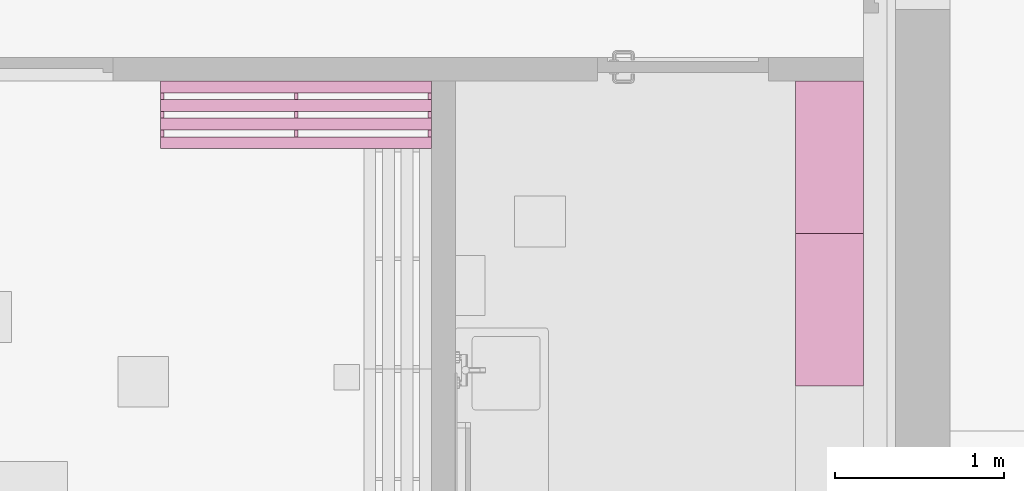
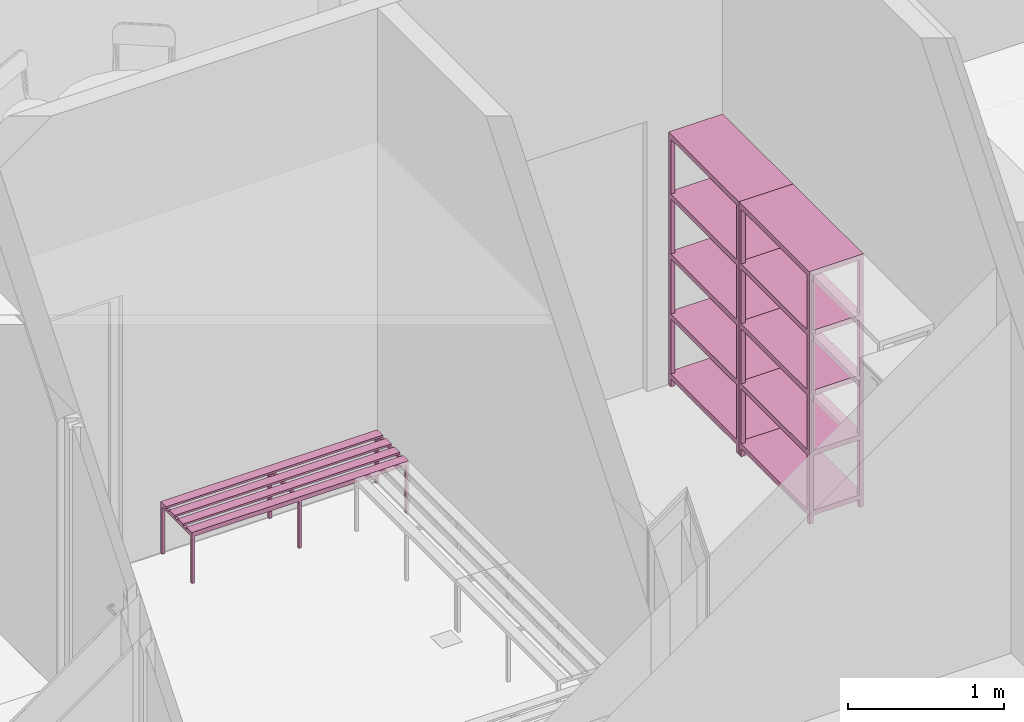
# One storey, part 279 of 301: 3 furnishings.
"""IFC2X3 building model written with IfcOpenShell, lengths in millimetres."""

from ifc_helpers import new_model, entity, si_unit, converted_unit, derived_unit, money_unit, direction, frame, origin_with_axes, place, context, subcontext, project, spatial, faceted_brep, source, transform, mapped, type_object, element, save


model = new_model("IFC2X3")

# Units and contexts
model_context = context("Model", 3, precision=0.01, world=origin_with_axes(), true_north=direction((0.0, 1.0)))
body_context = subcontext(model_context, "Body", "Model", "MODEL_VIEW")
ifc_project = project(units=[si_unit("LENGTHUNIT", "METRE", prefix="MILLI"), si_unit("AREAUNIT", "SQUARE_METRE"), si_unit("VOLUMEUNIT", "CUBIC_METRE"), converted_unit("PLANEANGLEUNIT", "DEGREE", entity("IfcPlaneAngleMeasure", 0.0174532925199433), si_unit("PLANEANGLEUNIT", "RADIAN"), dimensions=[0, 0, 0, 0, 0, 0, 0]), money_unit("EUR"), converted_unit("TIMEUNIT", "Year", entity("IfcTimeMeasure", 31557600.0), si_unit("TIMEUNIT", "SECOND"), dimensions=[0, 0, 1, 0, 0, 0, 0]), si_unit("MASSUNIT", "GRAM", prefix="KILO"), si_unit("THERMODYNAMICTEMPERATUREUNIT", "DEGREE_CELSIUS"), si_unit("LUMINOUSINTENSITYUNIT", "LUMEN"), si_unit("ENERGYUNIT", "JOULE", prefix="MEGA"), derived_unit("THERMALCONDUCTANCEUNIT", [(si_unit("POWERUNIT", "WATT"), 1), (si_unit("LENGTHUNIT", "METRE"), -1), (si_unit("THERMODYNAMICTEMPERATUREUNIT", "KELVIN"), -1)]), derived_unit("SPECIFICHEATCAPACITYUNIT", [(si_unit("ENERGYUNIT", "JOULE"), 1), (si_unit("MASSUNIT", "GRAM", prefix="KILO"), -1), (si_unit("THERMODYNAMICTEMPERATUREUNIT", "KELVIN"), -1)]), derived_unit("MASSDENSITYUNIT", [(si_unit("MASSUNIT", "GRAM", prefix="KILO"), 1), (si_unit("VOLUMEUNIT", "CUBIC_METRE"), -1)])], contexts=[model_context])

# Site, building, storey
site_placement = place(None, frame((0.0, 0.0, 8650.0), z_axis=(0.0, 0.0, 1.0), x_axis=(1.0, 0.0, 0.0)))
site = spatial("IfcSite", under=ifc_project, at=site_placement, Name="43301:001:0844", CompositionType="ELEMENT")
building_placement = place(site_placement, origin_with_axes())
building = spatial("IfcBuilding", under=site, at=building_placement, Name="Kuressaare Ametikooli tuulikute mehaanikute õppekorpus", CompositionType="ELEMENT")
storey_placement = place(building_placement, origin_with_axes())
storey = spatial("IfcBuildingStorey", under=building, at=storey_placement, Name="1.korrus", CompositionType="ELEMENT", Elevation=0.0)

# Furnishings
furniture_type_1 = type_object("IfcFurnitureType", Name="Bookshelf 02 27", AssemblyPlace="NOTDEFINED")
shared_shape_1 = source(origin_with_axes(), body_context, "Body", "Brep", [
    faceted_brep([(-30.0, 0.0, 0.0), (-30.0, 30.0, 0.0), (0.0, 30.0, 0.0), (0.0, 0.0, 0.0), (-30.0, 0.0, 1952.0), (-30.0, 30.0, 1952.0), (0.0, 30.0, 1952.0), (0.0, 0.0, 1952.0)], [[[0, 1, 2, 3]], [[0, 4, 5, 1]], [[1, 5, 6, 2]], [[2, 6, 7, 3]], [[3, 7, 4, 0]], [[7, 6, 5, 4]]]),
    faceted_brep([(-900.0000000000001, 0.0, 0.0), (-900.0000000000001, 30.0, 0.0), (-870.0000000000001, 30.0, 0.0), (-870.0000000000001, 0.0, 0.0), (-900.0000000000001, 0.0, 1952.0), (-900.0000000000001, 30.0, 1952.0), (-870.0000000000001, 30.0, 1952.0), (-870.0000000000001, 0.0, 1952.0)], [[[0, 1, 2, 3]], [[0, 4, 5, 1]], [[1, 5, 6, 2]], [[2, 6, 7, 3]], [[3, 7, 4, 0]], [[7, 6, 5, 4]]]),
    faceted_brep([(-30.0, 370.0, 0.0), (-30.0, 400.0, 0.0), (0.0, 400.0, 0.0), (0.0, 370.0, 0.0), (-30.0, 370.0, 1952.0), (-30.0, 400.0, 1952.0), (0.0, 400.0, 1952.0), (0.0, 370.0, 1952.0)], [[[0, 1, 2, 3]], [[0, 4, 5, 1]], [[1, 5, 6, 2]], [[2, 6, 7, 3]], [[3, 7, 4, 0]], [[7, 6, 5, 4]]]),
    faceted_brep([(-900.0000000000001, 370.0, 0.0), (-900.0000000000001, 400.0, 0.0), (-870.0000000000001, 400.0, 0.0), (-870.0000000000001, 370.0, 0.0), (-900.0000000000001, 370.0, 1952.0), (-900.0000000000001, 400.0, 1952.0), (-870.0000000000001, 400.0, 1952.0), (-870.0000000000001, 370.0, 1952.0)], [[[0, 1, 2, 3]], [[0, 4, 5, 1]], [[1, 5, 6, 2]], [[2, 6, 7, 3]], [[3, 7, 4, 0]], [[7, 6, 5, 4]]]),
    faceted_brep([(-30.0, 30.0, 60.0), (-30.0, 370.0, 60.0), (0.0, 370.0, 60.0), (0.0, 30.0, 60.0), (-30.0, 30.0, 80.0), (-30.0, 370.0, 80.0), (0.0, 370.0, 80.0), (0.0, 30.0, 80.0)], [[[0, 1, 2, 3]], [[0, 4, 5, 1]], [[1, 5, 6, 2]], [[2, 6, 7, 3]], [[3, 7, 4, 0]], [[7, 6, 5, 4]]]),
    faceted_brep([(-900.0000000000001, 30.0, 60.0), (-900.0000000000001, 370.0, 60.0), (-870.0000000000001, 370.0, 60.0), (-870.0000000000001, 30.0, 60.0), (-900.0000000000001, 30.0, 80.0), (-900.0000000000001, 370.0, 80.0), (-870.0000000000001, 370.0, 80.0), (-870.0000000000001, 30.0, 80.0)], [[[0, 1, 2, 3]], [[0, 4, 5, 1]], [[1, 5, 6, 2]], [[2, 6, 7, 3]], [[3, 7, 4, 0]], [[7, 6, 5, 4]]]),
    faceted_brep([(-870.0000000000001, 0.0, 60.0), (-870.0000000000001, 30.0, 60.0), (-30.0, 30.0, 60.0), (-30.0, 0.0, 60.0), (-870.0000000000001, 0.0, 80.0), (-870.0000000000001, 30.0, 80.0), (-30.0, 30.0, 80.0), (-30.0, 0.0, 80.0)], [[[0, 1, 2, 3]], [[0, 4, 5, 1]], [[1, 5, 6, 2]], [[2, 6, 7, 3]], [[3, 7, 4, 0]], [[7, 6, 5, 4]]]),
    faceted_brep([(-870.0000000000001, 370.0, 60.0), (-870.0000000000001, 400.0, 60.0), (-30.0, 400.0, 60.0), (-30.0, 370.0, 60.0), (-870.0000000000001, 370.0, 80.0), (-870.0000000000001, 400.0, 80.0), (-30.0, 400.0, 80.0), (-30.0, 370.0, 80.0)], [[[0, 1, 2, 3]], [[0, 4, 5, 1]], [[1, 5, 6, 2]], [[2, 6, 7, 3]], [[3, 7, 4, 0]], [[7, 6, 5, 4]]]),
    faceted_brep([(-30.0, 30.0, 528.0), (-30.0, 370.0, 528.0), (0.0, 370.0, 528.0), (0.0, 30.0, 528.0), (-30.0, 30.0, 548.0), (-30.0, 370.0, 548.0), (0.0, 370.0, 548.0), (0.0, 30.0, 548.0)], [[[0, 1, 2, 3]], [[0, 4, 5, 1]], [[1, 5, 6, 2]], [[2, 6, 7, 3]], [[3, 7, 4, 0]], [[7, 6, 5, 4]]]),
    faceted_brep([(-900.0000000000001, 30.0, 528.0), (-900.0000000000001, 370.0, 528.0), (-870.0000000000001, 370.0, 528.0), (-870.0000000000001, 30.0, 528.0), (-900.0000000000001, 30.0, 548.0), (-900.0000000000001, 370.0, 548.0), (-870.0000000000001, 370.0, 548.0), (-870.0000000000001, 30.0, 548.0)], [[[0, 1, 2, 3]], [[0, 4, 5, 1]], [[1, 5, 6, 2]], [[2, 6, 7, 3]], [[3, 7, 4, 0]], [[7, 6, 5, 4]]]),
    faceted_brep([(-870.0000000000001, 0.0, 528.0), (-870.0000000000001, 30.0, 528.0), (-30.0, 30.0, 528.0), (-30.0, 0.0, 528.0), (-870.0000000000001, 0.0, 548.0), (-870.0000000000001, 30.0, 548.0), (-30.0, 30.0, 548.0), (-30.0, 0.0, 548.0)], [[[0, 1, 2, 3]], [[0, 4, 5, 1]], [[1, 5, 6, 2]], [[2, 6, 7, 3]], [[3, 7, 4, 0]], [[7, 6, 5, 4]]]),
    faceted_brep([(-870.0000000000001, 370.0, 528.0), (-870.0000000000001, 400.0, 528.0), (-30.0, 400.0, 528.0), (-30.0, 370.0, 528.0), (-870.0000000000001, 370.0, 548.0), (-870.0000000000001, 400.0, 548.0), (-30.0, 400.0, 548.0), (-30.0, 370.0, 548.0)], [[[0, 1, 2, 3]], [[0, 4, 5, 1]], [[1, 5, 6, 2]], [[2, 6, 7, 3]], [[3, 7, 4, 0]], [[7, 6, 5, 4]]]),
    faceted_brep([(-30.0, 30.0, 996.0), (-30.0, 370.0, 996.0), (0.0, 370.0, 996.0), (0.0, 30.0, 996.0), (-30.0, 30.0, 1016.0), (-30.0, 370.0, 1016.0), (0.0, 370.0, 1016.0), (0.0, 30.0, 1016.0)], [[[0, 1, 2, 3]], [[0, 4, 5, 1]], [[1, 5, 6, 2]], [[2, 6, 7, 3]], [[3, 7, 4, 0]], [[7, 6, 5, 4]]]),
    faceted_brep([(-900.0000000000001, 30.0, 996.0), (-900.0000000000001, 370.0, 996.0), (-870.0000000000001, 370.0, 996.0), (-870.0000000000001, 30.0, 996.0), (-900.0000000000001, 30.0, 1016.0), (-900.0000000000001, 370.0, 1016.0), (-870.0000000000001, 370.0, 1016.0), (-870.0000000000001, 30.0, 1016.0)], [[[0, 1, 2, 3]], [[0, 4, 5, 1]], [[1, 5, 6, 2]], [[2, 6, 7, 3]], [[3, 7, 4, 0]], [[7, 6, 5, 4]]]),
    faceted_brep([(-870.0000000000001, 0.0, 996.0), (-870.0000000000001, 30.0, 996.0), (-30.0, 30.0, 996.0), (-30.0, 0.0, 996.0), (-870.0000000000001, 0.0, 1016.0), (-870.0000000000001, 30.0, 1016.0), (-30.0, 30.0, 1016.0), (-30.0, 0.0, 1016.0)], [[[0, 1, 2, 3]], [[0, 4, 5, 1]], [[1, 5, 6, 2]], [[2, 6, 7, 3]], [[3, 7, 4, 0]], [[7, 6, 5, 4]]]),
    faceted_brep([(-870.0000000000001, 370.0, 996.0), (-870.0000000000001, 400.0, 996.0), (-30.0, 400.0, 996.0), (-30.0, 370.0, 996.0), (-870.0000000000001, 370.0, 1016.0), (-870.0000000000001, 400.0, 1016.0), (-30.0, 400.0, 1016.0), (-30.0, 370.0, 1016.0)], [[[0, 1, 2, 3]], [[0, 4, 5, 1]], [[1, 5, 6, 2]], [[2, 6, 7, 3]], [[3, 7, 4, 0]], [[7, 6, 5, 4]]]),
    faceted_brep([(-30.0, 30.0, 1464.0), (-30.0, 370.0, 1464.0), (0.0, 370.0, 1464.0), (0.0, 30.0, 1464.0), (-30.0, 30.0, 1484.0), (-30.0, 370.0, 1484.0), (0.0, 370.0, 1484.0), (0.0, 30.0, 1484.0)], [[[0, 1, 2, 3]], [[0, 4, 5, 1]], [[1, 5, 6, 2]], [[2, 6, 7, 3]], [[3, 7, 4, 0]], [[7, 6, 5, 4]]]),
    faceted_brep([(-900.0000000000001, 30.0, 1464.0), (-900.0000000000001, 370.0, 1464.0), (-870.0000000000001, 370.0, 1464.0), (-870.0000000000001, 30.0, 1464.0), (-900.0000000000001, 30.0, 1484.0), (-900.0000000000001, 370.0, 1484.0), (-870.0000000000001, 370.0, 1484.0), (-870.0000000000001, 30.0, 1484.0)], [[[0, 1, 2, 3]], [[0, 4, 5, 1]], [[1, 5, 6, 2]], [[2, 6, 7, 3]], [[3, 7, 4, 0]], [[7, 6, 5, 4]]]),
    faceted_brep([(-870.0000000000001, 0.0, 1464.0), (-870.0000000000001, 30.0, 1464.0), (-30.0, 30.0, 1464.0), (-30.0, 0.0, 1464.0), (-870.0000000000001, 0.0, 1484.0), (-870.0000000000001, 30.0, 1484.0), (-30.0, 30.0, 1484.0), (-30.0, 0.0, 1484.0)], [[[0, 1, 2, 3]], [[0, 4, 5, 1]], [[1, 5, 6, 2]], [[2, 6, 7, 3]], [[3, 7, 4, 0]], [[7, 6, 5, 4]]]),
    faceted_brep([(-870.0000000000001, 370.0, 1464.0), (-870.0000000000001, 400.0, 1464.0), (-30.0, 400.0, 1464.0), (-30.0, 370.0, 1464.0), (-870.0000000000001, 370.0, 1484.0), (-870.0000000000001, 400.0, 1484.0), (-30.0, 400.0, 1484.0), (-30.0, 370.0, 1484.0)], [[[0, 1, 2, 3]], [[0, 4, 5, 1]], [[1, 5, 6, 2]], [[2, 6, 7, 3]], [[3, 7, 4, 0]], [[7, 6, 5, 4]]]),
    faceted_brep([(-30.0, 30.0, 1932.0), (-30.0, 370.0, 1932.0), (0.0, 370.0, 1932.0), (0.0, 30.0, 1932.0), (-30.0, 30.0, 1952.0), (-30.0, 370.0, 1952.0), (0.0, 370.0, 1952.0), (0.0, 30.0, 1952.0)], [[[0, 1, 2, 3]], [[0, 4, 5, 1]], [[1, 5, 6, 2]], [[2, 6, 7, 3]], [[3, 7, 4, 0]], [[7, 6, 5, 4]]]),
    faceted_brep([(-900.0000000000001, 30.0, 1932.0), (-900.0000000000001, 370.0, 1932.0), (-870.0000000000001, 370.0, 1932.0), (-870.0000000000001, 30.0, 1932.0), (-900.0000000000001, 30.0, 1952.0), (-900.0000000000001, 370.0, 1952.0), (-870.0000000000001, 370.0, 1952.0), (-870.0000000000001, 30.0, 1952.0)], [[[0, 1, 2, 3]], [[0, 4, 5, 1]], [[1, 5, 6, 2]], [[2, 6, 7, 3]], [[3, 7, 4, 0]], [[7, 6, 5, 4]]]),
    faceted_brep([(-870.0000000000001, 0.0, 1932.0), (-870.0000000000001, 30.0, 1932.0), (-30.0, 30.0, 1932.0), (-30.0, 0.0, 1932.0), (-870.0000000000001, 0.0, 1952.0), (-870.0000000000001, 30.0, 1952.0), (-30.0, 30.0, 1952.0), (-30.0, 0.0, 1952.0)], [[[0, 1, 2, 3]], [[0, 4, 5, 1]], [[1, 5, 6, 2]], [[2, 6, 7, 3]], [[3, 7, 4, 0]], [[7, 6, 5, 4]]]),
    faceted_brep([(-870.0000000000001, 370.0, 1932.0), (-870.0000000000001, 400.0, 1932.0), (-30.0, 400.0, 1932.0), (-30.0, 370.0, 1932.0), (-870.0000000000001, 370.0, 1952.0), (-870.0000000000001, 400.0, 1952.0), (-30.0, 400.0, 1952.0), (-30.0, 370.0, 1952.0)], [[[0, 1, 2, 3]], [[0, 4, 5, 1]], [[1, 5, 6, 2]], [[2, 6, 7, 3]], [[3, 7, 4, 0]], [[7, 6, 5, 4]]]),
    faceted_brep([(-900.0, 0.0, 1952.0), (-900.0, 400.0, 1952.0), (0.0, 400.0, 1952.0), (0.0, 0.0, 1952.0), (-900.0, 0.0, 1972.0), (-900.0, 400.0, 1972.0), (0.0, 400.0, 1972.0), (0.0, 0.0, 1972.0)], [[[0, 1, 2, 3]], [[0, 4, 5, 1]], [[1, 5, 6, 2]], [[2, 6, 7, 3]], [[3, 7, 4, 0]], [[7, 6, 5, 4]]]),
    faceted_brep([(0.0, 30.0, 80.0), (0.0, 30.0, 100.0), (-30.0, 30.0, 100.0), (-30.0, 30.0, 80.0), (0.0, 370.0, 80.0), (0.0, 370.0, 100.0), (-30.0, 370.0, 100.0), (-30.0, 400.0, 100.0), (-870.0, 400.0, 100.0), (-870.0, 370.0, 100.0), (-900.0, 370.0, 100.0), (-900.0, 30.0, 100.0), (-870.0, 30.0, 100.0), (-870.0, 0.0, 100.0), (-30.0, 0.0, 100.0), (-30.0, 0.0, 80.0), (-870.0, 0.0, 80.0), (-870.0, 30.0, 80.0), (-900.0, 30.0, 80.0), (-900.0, 370.0, 80.0), (-870.0, 370.0, 80.0), (-870.0, 400.0, 80.0), (-30.0, 400.0, 80.0), (-30.0, 370.0, 80.0)], [[[0, 1, 2, 3]], [[4, 5, 1, 0]], [[1, 5, 6, 7, 8, 9, 10, 11, 12, 13, 14, 2]], [[3, 2, 14, 15]], [[0, 3, 15, 16, 17, 18, 19, 20, 21, 22, 23, 4]], [[23, 6, 5, 4]], [[22, 7, 6, 23]], [[21, 8, 7, 22]], [[20, 9, 8, 21]], [[19, 10, 9, 20]], [[18, 11, 10, 19]], [[17, 12, 11, 18]], [[16, 13, 12, 17]], [[15, 14, 13, 16]]]),
    faceted_brep([(0.0, 30.0, 547.9999999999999), (0.0, 30.0, 568.0), (-30.0, 30.0, 568.0), (-30.0, 30.0, 547.9999999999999), (0.0, 370.0, 547.9999999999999), (0.0, 370.0, 568.0), (-30.0, 370.0, 568.0), (-30.0, 400.0, 568.0), (-870.0, 400.0, 568.0), (-870.0, 370.0, 568.0), (-900.0, 370.0, 568.0), (-900.0, 30.0, 568.0), (-870.0, 30.0, 568.0), (-870.0, 0.0, 568.0), (-30.0, 0.0, 568.0), (-30.0, 0.0, 547.9999999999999), (-870.0, 0.0, 547.9999999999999), (-870.0, 30.0, 547.9999999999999), (-900.0, 30.0, 547.9999999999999), (-900.0, 370.0, 547.9999999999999), (-870.0, 370.0, 547.9999999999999), (-870.0, 400.0, 547.9999999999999), (-30.0, 400.0, 547.9999999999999), (-30.0, 370.0, 547.9999999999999)], [[[0, 1, 2, 3]], [[4, 5, 1, 0]], [[1, 5, 6, 7, 8, 9, 10, 11, 12, 13, 14, 2]], [[3, 2, 14, 15]], [[0, 3, 15, 16, 17, 18, 19, 20, 21, 22, 23, 4]], [[23, 6, 5, 4]], [[22, 7, 6, 23]], [[21, 8, 7, 22]], [[20, 9, 8, 21]], [[19, 10, 9, 20]], [[18, 11, 10, 19]], [[17, 12, 11, 18]], [[16, 13, 12, 17]], [[15, 14, 13, 16]]]),
    faceted_brep([(0.0, 30.0, 1016.0), (0.0, 30.0, 1036.0), (-30.0, 30.0, 1036.0), (-30.0, 30.0, 1016.0), (0.0, 370.0, 1016.0), (0.0, 370.0, 1036.0), (-30.0, 370.0, 1036.0), (-30.0, 400.0, 1036.0), (-870.0, 400.0, 1036.0), (-870.0, 370.0, 1036.0), (-900.0, 370.0, 1036.0), (-900.0, 30.0, 1036.0), (-870.0, 30.0, 1036.0), (-870.0, 0.0, 1036.0), (-30.0, 0.0, 1036.0), (-30.0, 0.0, 1016.0), (-870.0, 0.0, 1016.0), (-870.0, 30.0, 1016.0), (-900.0, 30.0, 1016.0), (-900.0, 370.0, 1016.0), (-870.0, 370.0, 1016.0), (-870.0, 400.0, 1016.0), (-30.0, 400.0, 1016.0), (-30.0, 370.0, 1016.0)], [[[0, 1, 2, 3]], [[4, 5, 1, 0]], [[1, 5, 6, 7, 8, 9, 10, 11, 12, 13, 14, 2]], [[3, 2, 14, 15]], [[0, 3, 15, 16, 17, 18, 19, 20, 21, 22, 23, 4]], [[23, 6, 5, 4]], [[22, 7, 6, 23]], [[21, 8, 7, 22]], [[20, 9, 8, 21]], [[19, 10, 9, 20]], [[18, 11, 10, 19]], [[17, 12, 11, 18]], [[16, 13, 12, 17]], [[15, 14, 13, 16]]]),
    faceted_brep([(0.0, 30.0, 1484.0), (0.0, 30.0, 1504.0), (-30.0, 30.0, 1504.0), (-30.0, 30.0, 1484.0), (0.0, 370.0, 1484.0), (0.0, 370.0, 1504.0), (-30.0, 370.0, 1504.0), (-30.0, 400.0, 1504.0), (-870.0, 400.0, 1504.0), (-870.0, 370.0, 1504.0), (-900.0, 370.0, 1504.0), (-900.0, 30.0, 1504.0), (-870.0, 30.0, 1504.0), (-870.0, 0.0, 1504.0), (-30.0, 0.0, 1504.0), (-30.0, 0.0, 1484.0), (-870.0, 0.0, 1484.0), (-870.0, 30.0, 1484.0), (-900.0, 30.0, 1484.0), (-900.0, 370.0, 1484.0), (-870.0, 370.0, 1484.0), (-870.0, 400.0, 1484.0), (-30.0, 400.0, 1484.0), (-30.0, 370.0, 1484.0)], [[[0, 1, 2, 3]], [[4, 5, 1, 0]], [[1, 5, 6, 7, 8, 9, 10, 11, 12, 13, 14, 2]], [[3, 2, 14, 15]], [[0, 3, 15, 16, 17, 18, 19, 20, 21, 22, 23, 4]], [[23, 6, 5, 4]], [[22, 7, 6, 23]], [[21, 8, 7, 22]], [[20, 9, 8, 21]], [[19, 10, 9, 20]], [[18, 11, 10, 19]], [[17, 12, 11, 18]], [[16, 13, 12, 17]], [[15, 14, 13, 16]]]),
])
for number, where, z_axis, x_axis, name in (
    (1, (133024.9464416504, 22674.0689239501, 0.0), (0.0, 0.0, 1.0), (0.0, 1.0, 0.0), "R49"),
    (2, (133024.9464416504, 23574.0689239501, 0.0), (0.0, 0.0, 1.0), (0.0, 1.0, 0.0), "R49"),
):
    element("IfcFurnishingElement", number, at=place(storey_placement, frame(where, z_axis=z_axis, x_axis=x_axis)), inside=storey, type_object=furniture_type_1, Name=name, context=body_context, shape_type="MappedRepresentation", body=[
        mapped(shared_shape_1, transform((0.0, 0.0, 0.0))),
    ])
furniture_type_2 = type_object("IfcFurnitureType", Name="Bench 27", AssemblyPlace="NOTDEFINED")
shared_shape_2 = source(origin_with_axes(), body_context, "Body", "Brep", [
    faceted_brep([(-20.0, 0.0, 0.0), (-20.0, 20.0, 0.0), (0.0, 20.0, 0.0), (0.0, 0.0, 0.0), (-20.0, 0.0, 385.0), (-20.0, 20.0, 385.0), (0.0, 20.0, 385.0), (0.0, 0.0, 385.0)], [[[0, 1, 2, 3]], [[0, 4, 5, 1]], [[1, 5, 6, 2]], [[2, 6, 7, 3]], [[3, 7, 4, 0]], [[7, 6, 5, 4]]]),
    faceted_brep([(-20.0, 380.0, 0.0), (-20.0, 400.0, 0.0), (0.0, 400.0, 0.0), (0.0, 380.0, 0.0), (-20.0, 380.0, 385.0), (-20.0, 400.0, 385.0), (0.0, 400.0, 385.0), (0.0, 380.0, 385.0)], [[[0, 1, 2, 3]], [[0, 4, 5, 1]], [[1, 5, 6, 2]], [[2, 6, 7, 3]], [[3, 7, 4, 0]], [[7, 6, 5, 4]]]),
    faceted_brep([(-1600.000000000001, 0.0, 0.0), (-1600.000000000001, 20.0, 0.0), (-1580.000000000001, 20.0, 0.0), (-1580.000000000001, 0.0, 0.0), (-1600.000000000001, 0.0, 385.0), (-1600.000000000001, 20.0, 385.0), (-1580.000000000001, 20.0, 385.0), (-1580.000000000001, 0.0, 385.0)], [[[0, 1, 2, 3]], [[0, 4, 5, 1]], [[1, 5, 6, 2]], [[2, 6, 7, 3]], [[3, 7, 4, 0]], [[7, 6, 5, 4]]]),
    faceted_brep([(-1600.000000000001, 380.0, 0.0), (-1600.000000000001, 400.0, 0.0), (-1580.000000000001, 400.0, 0.0), (-1580.000000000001, 380.0, 0.0), (-1600.000000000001, 380.0, 385.0), (-1600.000000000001, 400.0, 385.0), (-1580.000000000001, 400.0, 385.0), (-1580.000000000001, 380.0, 385.0)], [[[0, 1, 2, 3]], [[0, 4, 5, 1]], [[1, 5, 6, 2]], [[2, 6, 7, 3]], [[3, 7, 4, 0]], [[7, 6, 5, 4]]]),
    faceted_brep([(-810.0000000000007, 0.0, 0.0), (-810.0000000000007, 20.0, 0.0), (-790.0000000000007, 20.0, 0.0), (-790.0000000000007, 0.0, 0.0), (-810.0000000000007, 0.0, 385.0), (-810.0000000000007, 20.0, 385.0), (-790.0000000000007, 20.0, 385.0), (-790.0000000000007, 0.0, 385.0)], [[[0, 1, 2, 3]], [[0, 4, 5, 1]], [[1, 5, 6, 2]], [[2, 6, 7, 3]], [[3, 7, 4, 0]], [[7, 6, 5, 4]]]),
    faceted_brep([(-810.0000000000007, 380.0, 0.0), (-810.0000000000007, 400.0, 0.0), (-790.0000000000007, 400.0, 0.0), (-790.0000000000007, 380.0, 0.0), (-810.0000000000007, 380.0, 385.0), (-810.0000000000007, 400.0, 385.0), (-790.0000000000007, 400.0, 385.0), (-790.0000000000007, 380.0, 385.0)], [[[0, 1, 2, 3]], [[0, 4, 5, 1]], [[1, 5, 6, 2]], [[2, 6, 7, 3]], [[3, 7, 4, 0]], [[7, 6, 5, 4]]]),
    faceted_brep([(-790.0000000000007, 0.0, 365.0000000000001), (-790.0000000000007, 20.0, 365.0000000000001), (-20.0, 20.0, 365.0000000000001), (-20.0, 0.0, 365.0000000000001), (-790.0000000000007, 0.0, 385.0000000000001), (-790.0000000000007, 20.0, 385.0000000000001), (-20.0, 20.0, 385.0000000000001), (-20.0, 0.0, 385.0000000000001)], [[[0, 1, 2, 3]], [[0, 4, 5, 1]], [[1, 5, 6, 2]], [[2, 6, 7, 3]], [[3, 7, 4, 0]], [[7, 6, 5, 4]]]),
    faceted_brep([(-1580.000000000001, 0.0, 365.0000000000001), (-1580.000000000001, 20.0, 365.0000000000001), (-810.0000000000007, 20.0, 365.0000000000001), (-810.0000000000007, 0.0, 365.0000000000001), (-1580.000000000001, 0.0, 385.0000000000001), (-1580.000000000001, 20.0, 385.0000000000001), (-810.0000000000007, 20.0, 385.0000000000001), (-810.0000000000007, 0.0, 385.0000000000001)], [[[0, 1, 2, 3]], [[0, 4, 5, 1]], [[1, 5, 6, 2]], [[2, 6, 7, 3]], [[3, 7, 4, 0]], [[7, 6, 5, 4]]]),
    faceted_brep([(-790.0000000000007, 380.0, 365.0000000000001), (-790.0000000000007, 400.0, 365.0000000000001), (-20.0, 400.0, 365.0000000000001), (-20.0, 380.0, 365.0000000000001), (-790.0000000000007, 380.0, 385.0000000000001), (-790.0000000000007, 400.0, 385.0000000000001), (-20.0, 400.0, 385.0000000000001), (-20.0, 380.0, 385.0000000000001)], [[[0, 1, 2, 3]], [[0, 4, 5, 1]], [[1, 5, 6, 2]], [[2, 6, 7, 3]], [[3, 7, 4, 0]], [[7, 6, 5, 4]]]),
    faceted_brep([(-1580.000000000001, 380.0, 365.0000000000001), (-1580.000000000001, 400.0, 365.0000000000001), (-810.0000000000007, 400.0, 365.0000000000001), (-810.0000000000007, 380.0, 365.0000000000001), (-1580.000000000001, 380.0, 385.0000000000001), (-1580.000000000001, 400.0, 385.0000000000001), (-810.0000000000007, 400.0, 385.0000000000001), (-810.0000000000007, 380.0, 385.0000000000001)], [[[0, 1, 2, 3]], [[0, 4, 5, 1]], [[1, 5, 6, 2]], [[2, 6, 7, 3]], [[3, 7, 4, 0]], [[7, 6, 5, 4]]]),
    faceted_brep([(-20.0, 20.0, 365.0000000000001), (-20.0, 380.0000000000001, 365.0000000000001), (0.0, 380.0000000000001, 365.0000000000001), (0.0, 20.0, 365.0000000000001), (-20.0, 20.0, 385.0000000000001), (-20.0, 380.0000000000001, 385.0000000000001), (0.0, 380.0000000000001, 385.0000000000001), (0.0, 20.0, 385.0000000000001)], [[[0, 1, 2, 3]], [[0, 4, 5, 1]], [[1, 5, 6, 2]], [[2, 6, 7, 3]], [[3, 7, 4, 0]], [[7, 6, 5, 4]]]),
    faceted_brep([(-810.0000000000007, 20.0, 365.0000000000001), (-810.0000000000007, 380.0000000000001, 365.0000000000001), (-790.0000000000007, 380.0000000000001, 365.0000000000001), (-790.0000000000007, 20.0, 365.0000000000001), (-810.0000000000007, 20.0, 385.0000000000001), (-810.0000000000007, 380.0000000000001, 385.0000000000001), (-790.0000000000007, 380.0000000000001, 385.0000000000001), (-790.0000000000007, 20.0, 385.0000000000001)], [[[0, 1, 2, 3]], [[0, 4, 5, 1]], [[1, 5, 6, 2]], [[2, 6, 7, 3]], [[3, 7, 4, 0]], [[7, 6, 5, 4]]]),
    faceted_brep([(-1600.000000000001, 20.0, 365.0000000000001), (-1600.000000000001, 380.0000000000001, 365.0000000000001), (-1580.000000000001, 380.0000000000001, 365.0000000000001), (-1580.000000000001, 20.0, 365.0000000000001), (-1600.000000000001, 20.0, 385.0000000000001), (-1600.000000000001, 380.0000000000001, 385.0000000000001), (-1580.000000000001, 380.0000000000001, 385.0000000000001), (-1580.000000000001, 20.0, 385.0000000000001)], [[[0, 1, 2, 3]], [[0, 4, 5, 1]], [[1, 5, 6, 2]], [[2, 6, 7, 3]], [[3, 7, 4, 0]], [[7, 6, 5, 4]]]),
    faceted_brep([(0.0, 330.0, 385.0), (0.0, 330.0, 400.0), (-1600.000000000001, 330.0, 400.0), (-1600.000000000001, 330.0, 385.0), (0.0, 400.0, 385.0), (0.0, 400.0, 400.0), (-1600.000000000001, 400.0, 400.0), (-1600.000000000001, 400.0, 385.0)], [[[0, 1, 2, 3]], [[4, 5, 1, 0]], [[1, 5, 6, 2]], [[3, 2, 6, 7]], [[0, 3, 7, 4]], [[7, 6, 5, 4]]]),
    faceted_brep([(-1600.000000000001, 0.0, 385.0), (-1600.000000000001, 70.0, 385.0), (0.0, 70.0, 385.0), (0.0, 0.0, 385.0), (-1600.000000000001, 0.0, 400.0), (-1600.000000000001, 70.0, 400.0), (0.0, 70.0, 400.0), (0.0, 0.0, 400.0)], [[[0, 1, 2, 3]], [[0, 4, 5, 1]], [[1, 5, 6, 2]], [[2, 6, 7, 3]], [[3, 7, 4, 0]], [[7, 6, 5, 4]]]),
    faceted_brep([(-1600.000000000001, 110.0, 385.0), (-1600.000000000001, 180.0, 385.0), (0.0, 180.0, 385.0), (0.0, 110.0, 385.0), (-1600.000000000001, 110.0, 400.0), (-1600.000000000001, 180.0, 400.0), (0.0, 180.0, 400.0), (0.0, 110.0, 400.0)], [[[0, 1, 2, 3]], [[0, 4, 5, 1]], [[1, 5, 6, 2]], [[2, 6, 7, 3]], [[3, 7, 4, 0]], [[7, 6, 5, 4]]]),
    faceted_brep([(-1600.000000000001, 220.0, 385.0), (-1600.000000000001, 290.0000000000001, 385.0), (0.0, 290.0000000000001, 385.0), (0.0, 220.0, 385.0), (-1600.000000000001, 220.0, 400.0), (-1600.000000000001, 290.0000000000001, 400.0), (0.0, 290.0000000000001, 400.0), (0.0, 220.0, 400.0)], [[[0, 1, 2, 3]], [[0, 4, 5, 1]], [[1, 5, 6, 2]], [[2, 6, 7, 3]], [[3, 7, 4, 0]], [[7, 6, 5, 4]]]),
])
furnishing_placement = place(storey_placement, frame((128874.9464826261, 23574.0689239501, 0.0), z_axis=(0.0, 0.0, 1.0), x_axis=(-1.0, 0.0, 0.0)))
element("IfcFurnishingElement", 3, at=furnishing_placement, inside=storey, type_object=furniture_type_2, Name="PI1", context=body_context, shape_type="MappedRepresentation", body=[
    mapped(shared_shape_2, transform((0.0, 0.0, 0.0))),
])

save(model, "model.ifc")
